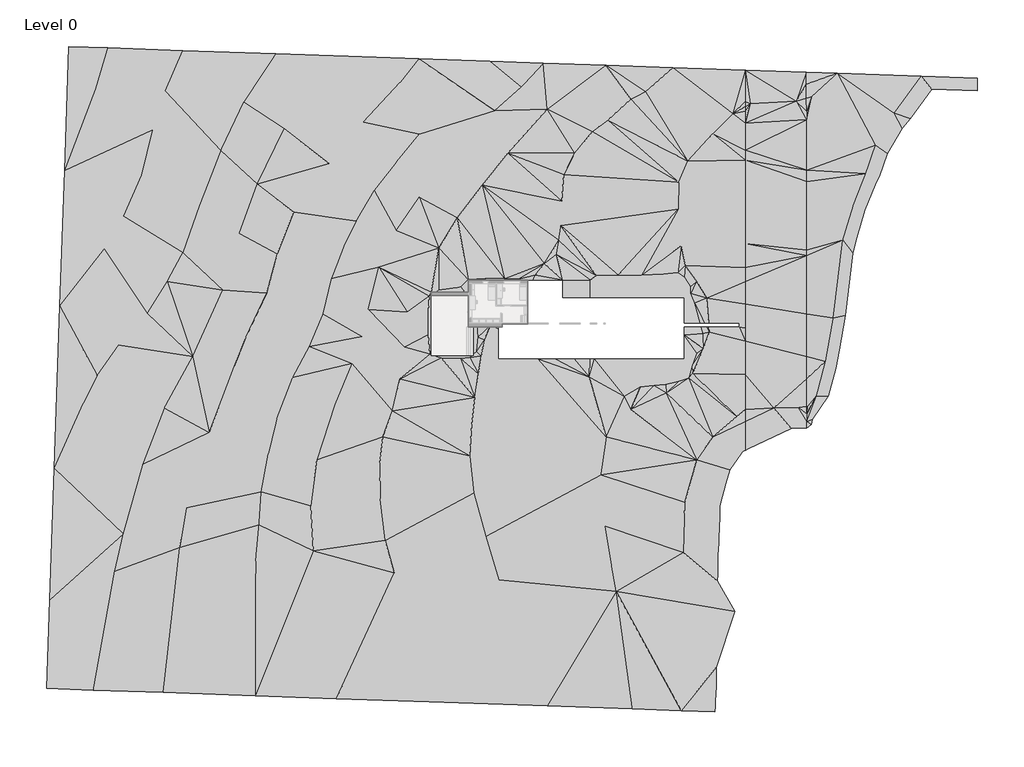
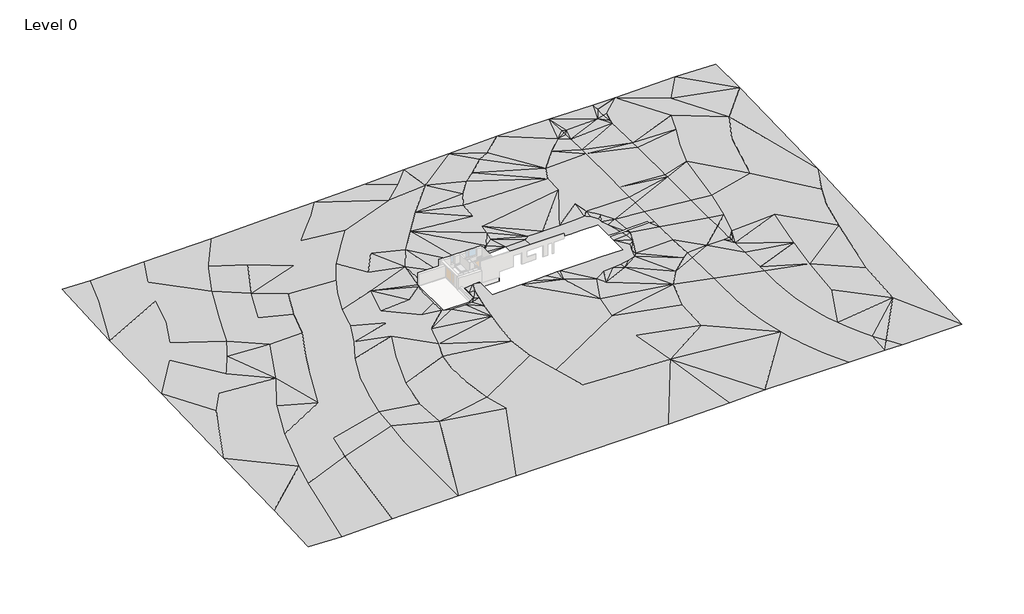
# One storey, part 2 of 2: 3 proxies.
"""IFC4 building model written with IfcOpenShell, lengths in millimetres."""

from ifc_helpers import new_model, si_unit, origin, place, context, project, spatial, triangles, element, save

model = new_model("IFC4")

# Units and contexts
model_context = context("Model", 3, world=origin())
ifc_project = project(units=[si_unit("LENGTHUNIT", "METRE", prefix="MILLI")], contexts=[model_context])

# Site, building, storey
site = spatial("IfcSite", under=ifc_project)
building = spatial("IfcBuilding", under=site)
storey = spatial("IfcBuildingStorey", under=building, Name="Level 0", Elevation=-600.0)

# Proxies
placement = place(None, origin())
element("IfcBuildingElementProxy", 1, Name="Building Element Proxy", at=placement, inside=storey, context=model_context, shape_type="Tessellation", body=[
    triangles([(-47062.8575684, 40293.7637695, -4500.0000343), (-52113.9492554, 40470.1530029, -4500.0000343), (-52680.2635254, 24253.0475281, -4500.0000343), (-53297.9514038, 6564.8318481, -4000.0000305), (-54038.6829346, -14646.8850403, -3500.0000267), (-54638.7579346, -31830.8059204, -3000.0000229), (-55043.0867432, -43409.3735962, -3000.0000229), (-48951.1469604, -43622.1094482, -3000.0000229), (-39803.593689, -43941.550415, -2500.0000191), (-27810.1350586, -44360.3713623, -2000.0000153), (-17239.6279449, -44729.5023193, -1500.0000114), (-5042.8916061, -45155.4205078, -1000.0000076), (10338.5491791, -45692.5505127, -500.0000038), (21451.1325073, -46080.6105469, 0.0), (27844.1074036, -46303.8573853, 500.0000038), (43052.9116333, -46834.9598511, 848.3401514), (41979.1353149, -44769.7417236, 821.2167343), (40992.335083, -42661.5773804, 796.0280828), (40094.2271118, -40514.127063, 772.8178717), (39286.3694458, -38331.1277527, 751.6265053), (39000.8101318, -37448.0839783, 743.9968838), (38570.1596741, -36116.3629395, 734.1783697), (37946.8512085, -33873.683551, 719.8918871), (37417.5207275, -31606.9800476, 707.6728655), (36983.0891052, -29320.1917236, 697.5425245), (36644.3074585, -27017.2904297, 689.5183777), (36596.8638428, -26564.436676, 688.3634336), (36401.7687744, -24702.2712708, 680.94986), (36335.5797913, -23648.1867737, 677.72215), (36255.8939575, -22379.1595825, 675.0342327), (36206.9318298, -20051.987677, 672.2113672), (36206.8132324, -19443.358548, 671.7480234), (36206.0249084, -15469.7173737, 648.0182945), (36205.4621521, -12624.6049896, 609.2137954), (36204.6505737, -8520.1252899, 500.0000038), (36204.4691895, -7605.5439056, 500.0000038), (36204.3436157, -6964.2999069, 500.0000038), (36203.4366943, -2378.8300896, 278.9753953), (36202.5786072, 1955.5409557, 154.9854345), (36202.2367676, 3675.0160881, 145.2621454), (36201.6228516, 6787.9943893, 152.8893415), (36201.0368408, 9744.5709, 142.2020215), (36200.6787231, 11554.5679779, 166.3682426), (36200.0462036, 14749.4345947, 198.2273626), (36199.4904236, 17562.3721985, 203.8248407), (36197.899823, 25594.6726135, 125.4370927), (36197.6416992, 26900.2301331, 115.9978887), (36196.9417419, 30441.6046692, 52.4488289), (36196.6301331, 32020.303656, 0.0), (36196.5092102, 32624.3505066, 0.0), (36196.381311, 33275.6061035, -31.2932048), (36195.5674072, 37386.3156555, -279.2368801), (26696.8216187, 37718.02099, -500.0000038), (18007.2810883, 38021.4652588, -1000.0000076), (9832.8207458, 38306.9245789, -1500.0000114), (2811.2909019, 38552.1212402, -2000.0000153), (-6430.5109772, 38874.8527039, -2500.0000191), (-15696.7697937, 39198.4352783, -3000.0000229), (-25115.869281, 39527.3593872, -3500.0000267), (-37279.4872925, 39952.1241577, -4000.0000305), (12360.0002106, 9960.0001923, -210.0000089), (12360.0002106, 7679.999826, -229.7587047), (12986.7293976, 7679.999826, -199.1943094), (15938.3887665, 7679.999826, -109.0047382), (18788.9891876, 7679.999826, -110.9825699), (20187.7979919, 7679.999826, -100.0000008), (22628.3373962, 7679.999826, -100.0000008), (22988.0666016, 7679.999826, -100.0000008), (24740.727063, 7679.999826, -100.0000008), (28197.1858521, 7679.999826, -100.0000008), (28199.9996338, 7679.999826, -100.0000008), (28199.9996338, 7678.500499, -100.0000008), (28199.9996338, 4319.9999748, -100.0000008), (29690.7714294, 4319.9999748, -100.0000008), (30279.9424438, 4319.9999748, -100.0000008), (30908.9993958, 4319.9999748, -31.0460633), (31416.6009705, 4319.9999748, 0.0), (35399.9996887, 4319.9999748, 122.2298394), (35399.9996887, 3839.999913, 121.0508688), (31455.0242065, 3839.999913, 0.0), (31153.3635498, 3839.999913, -18.4501842), (30409.3973328, 3839.999913, -100.0000008), (29712.602655, 3839.999913, -100.0000008), (28199.9996338, 3839.999913, -100.0000008), (28199.9996338, 2757.5497055, -100.0000008), (28199.9996338, -360.00001, -100.0000008), (23853.7207397, -360.00001, -100.0000008), (22511.993335, -360.00001, -100.0000008), (21752.8164185, -360.00001, -100.0000008), (16504.800705, -360.00001, -141.2041627), (15862.1806274, -360.00001, -140.758296), (15196.7770569, -360.00001, -161.0900401), (13880.4667053, -360.00001, -225.2839233), (13373.8755341, -360.00001, -233.3955103), (12470.4004486, -360.00001, -249.2727207), (11393.3638641, -360.00001, -270.7964614), (9179.1106476, -360.00001, -319.6154838), (3959.9998558, -360.00001, -445.0650939), (3959.9998558, 1473.4966873, -452.5169646), (3959.9998558, 3551.736985, -472.7297934), (3959.9998558, 3839.999913, -476.6637102), (3412.2219543, 3839.999913, -487.6106074), (2850.2850334, 3839.999913, -500.0000038), (2705.52323, 3839.999913, -531.4807858), (1224.3767189, 3839.999913, -709.9999763), (0.0, 3839.999913, -709.9999763), (0.0, 3843.4784798, -709.9999763), (0.0, 4418.2806038, -709.9999763), (0.0, 7191.4790634, -709.9999763), (0.0, 7461.3893326, -709.9999763), (0.0, 7882.6211792, -709.9999763), (0.0, 7919.9997116, -710.7061106), (-31.6140269, 7919.9997116, -709.9999763), (-1504.7497215, 7919.9997116, -709.9999763), (-4176.3875198, 7919.9997116, -709.9999763), (-4800.0000366, 7919.9997116, -709.9999763), (-4800.0000366, 8035.0118774, -709.9999763), (-4800.0000366, 8400.0000641, -729.1942263), (-4206.8946693, 8400.0000641, -709.9999763), (-3944.5231842, 8400.0000641, -709.9999763), (-3079.6797523, 8400.0000641, -709.9999763), (-437.587825, 8400.0000641, -709.9999763), (0.0, 8400.0000641, -719.7739437), (0.0, 9960.0001923, -749.2443832), (7.1510965, 9960.0001923, -749.4040392), (2125.0455803, 9960.0001923, -747.2442146), (2319.5642303, 9960.0001923, -739.3771076), (2455.8945717, 9960.0001923, -733.8796234), (4805.8618881, 9960.0001923, -733.8796234), (4953.8563431, 9960.0001923, -725.251153), (6600.6441971, 9960.0001923, -730.7311237), (6853.6020126, 9960.0001923, -704.9790619), (7800.0000595, 9960.0001923, -581.8375231), (8428.9581802, 9960.0001923, -500.0000038), (63585.4397461, -47551.9718994, 1500.0000114), (65303.6651001, 1651.4795734, 1500.0000114), (66230.8503662, 28202.6204041, 1000.0000076), (66514.5772339, 36327.5523743, 500.0000038), (59144.0178223, 36584.9389893, 500.0000038), (48210.2572998, 36966.7552185, 0.0), (44190.6933472, 37107.1210693, -93.4198246), (44191.0003052, 35558.2946777, 0.0), (44191.2654053, 34209.8676819, 0.0), (44191.3677246, 33712.0096985, 0.0), (44191.7165405, 31934.6437683, 72.6111838), (44191.9211792, 30893.6096375, 88.7050779), (44193.2234253, 24332.861261, 306.6717607), (44193.5257324, 22803.0964966, 334.1229921), (44194.269873, 19042.5376648, 361.3118849), (44194.8558838, 16068.4447815, 390.3362397), (44195.0651733, 15026.9083557, 388.2636918), (44195.2977173, 13843.9561432, 376.4673188), (44195.4279419, 13173.7749573, 367.5193548), (44196.9394775, 5532.5384628, 395.1405976), (44197.1255127, 4592.1322014, 392.8364868), (44198.0463867, -57.8921377, 419.1314661), (44198.6091431, -2884.8492027, 500.0000038), (44198.9998169, -4861.496283, 500.0000038), (44199.22771, -6011.4522537, 500.0000038), (44199.3393311, -6581.8465073, 500.0000038), (44199.534668, -7568.643251, 560.6235563), (44199.7160522, -8498.5527695, 566.292905), (44200.3625244, -11759.9798584, 687.5978554), (44201.3159546, -16580.0542511, 815.8525269), (44201.5810547, -17920.7363708, 834.1381113), (44201.953125, -19793.2081238, 845.3201323), (44202.0600952, -20331.1822632, 845.7296276), (44234.3790527, -21781.2960754, 847.527919), (44247.6340576, -22375.9504761, 848.8214447), (44383.467627, -24416.7119568, 855.2387129), (44609.2864014, -26449.4832275, 863.612911), (44771.1741943, -27486.8129333, 868.9077913), (44924.6578491, -28470.2994141, 872.5287912), (45328.9634033, -30475.216571, 881.9271275), (45733.0829224, -32104.2566711, 891.2315014), (45821.4124146, -32460.3233093, 893.6950138), (46401.0468018, -34421.7477722, 909.3926748), (47066.7317505, -36355.6599609, 927.0232121), (47817.1743164, -38258.2880127, 946.5522526), (48650.9048218, -40125.9182007, 967.9416447), (49566.3001099, -41954.9088867, 991.1496758), (49918.9018433, -42587.926062, 1000.0000076), (50561.5695923, -43741.6928467, 1047.5840218), (51238.2864258, -44839.5421143, 1097.2580973), (51634.7785034, -45482.7772705, 1100.1833548), (52783.824646, -47174.7716675, 1111.758375), (-48727.0164551, 34677.7437744, -4500.0000343), (-39569.998645, 34629.3444031, -4000.0000305), (-41240.5431885, 29531.6671875, -4000.0000305), (-42666.0794312, 23679.1686035, -4000.0000305), (-45023.6843628, 18334.1157898, -4000.0000305), (-47481.3203979, 14010.1901825, -4000.0000305), (-29308.3924438, 33185.52323, -3500.0000267), (-32311.3300781, 26845.3706909, -3500.0000267), (-35071.6220581, 19682.6404541, -3500.0000267), (-37254.3446411, 13517.3714264, -3500.0000267), (-39284.1230713, 9789.0862061, -3500.0000267), (-41872.5418213, 5605.4113403, -3500.0000267), (-45612.8763062, 1461.9632343, -3500.0000267), (-48397.4737793, -2511.3333389, -3500.0000267), (-50221.6089478, -6178.9583084, -3500.0000267), (-24001.2001099, 29743.7635437, -3000.0000229), (-27511.581189, 22471.5399902, -3000.0000229), (-29907.0466003, 16042.3324219, -3000.0000229), (-32064.6009521, 8655.024614, -3000.0000229), (-35963.4699463, -28.3201486, -3000.0000229), (-39658.2025635, -6751.3675552, -3000.0000229), (-42493.3504395, -14115.012854, -3000.0000229), (-45048.8595703, -23184.4801941, -3000.0000229), (-46170.2283325, -28097.808197, -3000.0000229), (-37649.7205078, -25003.2366211, -2500.0000191), (-36789.9264771, -19809.4048096, -2500.0000191), (-33799.4648254, -9941.0199554, -2500.0000191), (-30515.1652954, -1371.8979469, -2500.0000191), (-29025.0981079, 2443.0776215, -2500.0000191), (-26312.1288208, 8250.6173218, -2500.0000191), (-24912.6235474, 13357.7590759, -2500.0000191), (-22753.5623108, 18845.4299286, -2500.0000191), (-18122.0287354, 25196.5527283, -2500.0000191), (-13659.1406799, 30603.7715149, -2500.0000191), (-8864.5531036, 35795.8801758, -2500.0000191), (-6388.4228485, 28993.025647, -2000.0000153), (-9364.4702637, 25365.6261292, -2000.0000153), (-12275.123996, 21668.1006592, -2000.0000153), (-14585.4062347, 17678.2418701, -2000.0000153), (-16187.3305481, 14459.9999359, -2000.0000153), (-17834.2137451, 10125.5145081, -2000.0000153), (-18946.1179688, 5483.2257751, -2000.0000153), (-20721.4212341, 1271.1572937, -2000.0000153), (-22898.5511353, -2791.1947449, -2000.0000153), (-24987.4840942, -8213.472496, -2000.0000153), (-26097.0210205, -12788.0019928, -2000.0000153), (-27015.1114929, -17708.4272369, -2000.0000153), (-27302.068396, -22040.3128235, -2000.0000153), (-27738.7440674, -26774.0238831, -2000.0000153), (-20228.3931885, -25408.0747009, -1500.0000114), (-20566.9748474, -19561.815271, -1500.0000114), (-19746.5435303, -13552.5030029, -1500.0000114), (-17390.4443207, -6307.8138153, -1500.0000114), (-15168.3566986, -958.0283689, -1500.0000114), (-13891.0335022, 2593.0074234, -1500.0000114), (-13022.63302, 6090.4805695, -1500.0000114), (-11674.3234589, 11674.3060181, -1500.0000114), (-9405.7723938, 16411.8877716, -1500.0000114), (-6403.6969162, 20784.6429565, -1500.0000114), (-1297.8450542, 27119.2028137, -1500.0000114), (3489.6439728, 32108.0331848, -1500.0000114), (6921.0792892, 35176.7923828, -1500.0000114), (10347.5660706, 32275.6020264, -1000.0000076), (5195.2503296, 26553.2466614, -1000.0000076), (1859.1087605, 22327.8417847, -1000.0000076), (-1398.9093796, 18126.6784515, -1000.0000076), (-3825.0772774, 14149.4654022, -1000.0000076), (-7940.8594849, 5802.4702423, -1000.0000076), (-8333.9447937, 1225.2095169, -1000.0000076), (-8925.7639023, -3001.0194374, -1000.0000076), (-9890.4183929, -7180.3012573, -1000.0000076), (-11160.6431854, -10534.0500366, -1000.0000076), (-11552.3599731, -13974.3353943, -1000.0000076), (-11444.5898071, -18659.2157135, -1000.0000076), (-10818.4059357, -24040.6232849, -1000.0000076), (-9609.9180725, -28289.0453613, -1000.0000076), (3993.2080032, -29238.9734253, -500.0000038), (2292.3340611, -23548.6672668, -500.0000038), (726.9793905, -17863.0957031, -500.0000038), (217.3844419, -13028.4977783, -500.0000038), (497.2431227, -8899.8916443, -500.0000038), (891.3251003, -5385.8549744, -500.0000038), (1346.1470478, -2223.5266331, -500.0000038), (2095.3158543, 2128.5684757, -500.0000038), (8788.1391632, 10609.6175171, -500.0000038), (11516.9016724, 13306.7726532, -500.0000038), (12123.7274231, 17084.7490265, -500.0000038), (12234.9392395, 20269.4534729, -500.0000038), (12491.1363922, 23720.4637573, -500.0000038), (13945.7103973, 26519.0440979, -500.0000038), (16215.7660217, 29356.9894775, -500.0000038), (18235.2195007, 30846.8403992, -500.0000038), (21248.2658203, 33590.9984802, -500.0000038), (23181.0292419, 34541.1404846, -500.0000038), (44868.8473022, 33919.4691284, 0.0), (34547.2261597, 31701.9021606, 0.0), (31945.4710144, 29079.0645813, 0.0), (28698.3831665, 25461.1296021, 0.0), (27517.2157288, 22720.8457031, 0.0), (27461.9307312, 19194.9760345, 0.0), (27860.4226868, 14459.9999359, 0.0), (28378.5817566, 11841.5469727, 0.0), (31155.623877, 7580.336142, 0.0), (31511.3044922, 3136.9059105, 0.0), (29351.6991028, -2282.9900093, 0.0), (21225.0300293, -6988.215889, 0.0), (18031.4156616, -10534.0500366, 0.0), (17294.3222809, -15524.4210114, 0.0), (17875.5484314, -22193.2616272, 0.0), (18716.8424286, -27242.9696777, 0.0), (19341.5217407, -30724.7408752, 0.0), (28068.5355652, -25602.1116943, 500.0000038), (28295.6914673, -19097.1854919, 500.0000038), (29847.280481, -13520.4584473, 500.0000038), (31979.4526611, -10534.0500366, 500.0000038), (35064.9899048, -7868.2290344, 500.0000038), (36199.9996948, -6964.5516357, 500.0000038), (44337.0937134, -6563.8028412, 500.0000038), (45470.9361328, -5178.7100601, 500.0000038), (46645.8690674, -674.3065882, 500.0000038), (47657.7468384, 4989.1094238, 500.0000038), (48895.9224243, 15190.0553741, 500.0000038), (50274.1313232, 19687.3610962, 500.0000038), (51911.5476563, 23836.4008667, 500.0000038), (53195.971582, 27590.7158936, 500.0000038), (55648.8730225, 31779.1230286, 500.0000038), (60736.0043701, 22035.7154297, 1000.0000076), (58037.2342163, 16634.7334717, 1000.0000076), (55722.0034424, 6674.9251282, 1000.0000076), (53335.7909546, -5317.6719269, 1000.0000076), (52093.7411865, -13686.7413208, 1000.0000076), (51326.8763672, -20104.9774658, 1000.0000076), (50706.4956299, -28156.5464722, 1000.0000076), (57713.8725586, -35619.0770142, 1500.0000114), (58305.9015381, -26183.1273926, 1500.0000114), (60372.2498291, -13636.622287, 1500.0000114), (61674.0959473, -7440.5935089, 1500.0000114), (63057.1231567, -3553.8845284, 1500.0000114), (11832.5114777, 15154.4156891, -500.0000038), (9950.8751678, 12083.4426727, -500.0000038), (1735.4006138, 0.0, -500.0000038), (29870.0907166, 9741.7024704, 0.0), (30738.9167542, 999.1443913, 0.0), (25851.7731995, -4811.1269737, 0.0), (20416.7863403, -5238.1424789, -100.0000008), (22459.4616577, -3990.260218, -100.0000008), (24228.7466858, -3843.1572784, -100.0000008), (25817.300885, -3664.5609123, -100.0000008), (27456.1055054, -3296.7179581, -100.0000008), (28837.8746521, -2864.285051, -100.0000008), (29304.2043274, -1143.71609, -100.0000008), (29869.8953796, 381.3363894, -100.0000008), (30652.7243408, 2937.7683563, -100.0000008), (29571.2717468, 6947.676503, -100.0000008), (29062.4818726, 8164.9522018, -100.0000008), (29045.64104, 9098.5016144, -100.0000008), (28251.6918274, 10345.668512, -100.0000008), (27431.4721252, 10924.2006409, -100.0000008), (15839.9994232, -2700.0000206, -150.0000011), (25511.5637329, 10719.1294373, -100.0000008), (22670.9580505, 10625.224704, -100.0000008), (19619.0675903, 10601.74823, -100.0000008), (16754.9842712, 10554.7964447, -100.0000008), (15960.000238, 9960.0001923, -100.0000008), (6589.8413681, 10108.750415, -750.0000057), (4758.7072083, 10155.703363, -750.0000057), (2246.7664936, 10155.703363, -750.0000057), (0.0, 10000.0000763, -750.0000057), (-969.4566685, 9028.8512146, -709.9999763), (-3833.5386795, 8629.7575516, -709.9999763), (-5054.2949799, 7878.5231735, -709.9999763), (-5171.6750244, 5859.5801285, -709.9999763), (-5195.1514984, 2831.1655609, -709.9999763), (-5030.8185059, 319.2248099, -709.9999763), (-3528.3494591, -220.7250446, -709.9999763), (-969.4566685, -267.6772114, -709.9999763), (251.2995955, -150.2968035, -709.9999763), (1096.4385252, 624.4138487, -709.9999763), (1284.2471924, 2479.0242645, -709.9999763)], [[6, 7, 8], [210, 8, 9], [8, 210, 6], [235, 211, 9], [6, 209, 5], [209, 6, 210], [209, 210, 211], [5, 209, 208], [209, 212, 208], [212, 209, 211], [234, 212, 211], [213, 208, 212], [210, 9, 211], [5, 208, 201], [235, 9, 10], [235, 236, 234], [235, 10, 236], [262, 261, 236], [262, 11, 12], [260, 261, 265], [262, 236, 11], [10, 11, 236], [236, 261, 237], [234, 237, 233], [234, 236, 237], [233, 237, 238], [233, 212, 234], [238, 260, 259], [260, 238, 237], [259, 266, 258], [238, 259, 258], [261, 260, 237], [213, 212, 233], [265, 259, 260], [234, 211, 235], [232, 233, 238], [201, 200, 4], [200, 201, 207], [206, 207, 213], [207, 201, 208], [207, 208, 213], [200, 207, 199], [233, 232, 213], [213, 231, 214], [4, 199, 198], [199, 4, 200], [198, 199, 206], [192, 4, 198], [206, 214, 215], [206, 199, 207], [230, 215, 214], [198, 206, 197], [213, 214, 206], [215, 205, 206], [231, 213, 232], [201, 4, 5], [231, 239, 230], [232, 238, 231], [240, 230, 239], [231, 230, 214], [239, 257, 240], [266, 257, 258], [268, 256, 257], [257, 239, 258], [239, 231, 238], [256, 240, 257], [228, 229, 241], [240, 229, 230], [241, 229, 240], [229, 216, 215], [241, 255, 242], [255, 241, 240], [242, 255, 254], [241, 242, 228], [240, 256, 255], [228, 216, 229], [255, 256, 360], [229, 215, 230], [238, 258, 239], [228, 242, 227], [261, 262, 264], [257, 266, 267], [266, 259, 265], [265, 294, 266], [265, 261, 264], [264, 262, 263], [293, 267, 266], [12, 13, 263], [264, 294, 265], [362, 361, 268], [257, 267, 268], [361, 256, 268], [106, 361, 362], [268, 98, 269], [97, 98, 268], [362, 269, 363], [268, 269, 362], [97, 268, 267], [98, 327, 269], [264, 263, 295], [361, 360, 256], [96, 97, 345], [296, 295, 263], [264, 295, 294], [97, 293, 345], [293, 97, 267], [90, 345, 331], [263, 13, 297], [96, 345, 95], [345, 94, 95], [345, 93, 94], [92, 93, 345], [345, 91, 92], [345, 90, 91], [293, 266, 294], [360, 361, 359], [359, 254, 255], [106, 362, 365], [359, 361, 106], [364, 363, 327], [364, 362, 363], [359, 106, 107], [357, 254, 358], [254, 359, 358], [108, 109, 114], [242, 254, 243], [358, 108, 114], [108, 358, 359], [107, 108, 359], [362, 364, 365], [255, 360, 359], [364, 270, 365], [270, 364, 327], [270, 327, 99], [104, 365, 270], [270, 100, 102], [99, 100, 270], [327, 98, 99], [101, 102, 100], [104, 105, 365], [103, 104, 270], [62, 63, 61], [103, 270, 102], [365, 105, 106], [363, 269, 327], [114, 109, 110], [263, 262, 12], [196, 197, 205], [205, 197, 206], [216, 227, 217], [216, 228, 227], [217, 227, 226], [216, 217, 205], [205, 215, 216], [204, 205, 217], [192, 196, 191], [196, 192, 197], [195, 191, 196], [192, 191, 3], [217, 218, 204], [204, 196, 205], [218, 226, 225], [195, 196, 204], [226, 218, 217], [203, 204, 218], [227, 243, 226], [197, 192, 198], [357, 117, 118], [117, 357, 116], [116, 357, 358], [115, 116, 358], [225, 243, 244], [243, 225, 226], [253, 244, 243], [225, 244, 224], [118, 119, 356], [356, 119, 120], [253, 243, 118], [243, 357, 118], [245, 244, 253], [120, 121, 356], [243, 227, 242], [357, 243, 254], [218, 225, 219], [3, 190, 189], [3, 191, 190], [190, 194, 189], [194, 190, 195], [193, 194, 202], [189, 194, 188], [191, 195, 190], [3, 189, 187], [2, 187, 1], [187, 2, 3], [1, 187, 188], [188, 193, 60], [188, 187, 189], [60, 193, 59], [188, 60, 1], [194, 193, 188], [194, 195, 203], [218, 219, 203], [195, 204, 203], [219, 224, 223], [202, 203, 219], [223, 245, 222], [245, 223, 224], [246, 222, 245], [219, 223, 220], [219, 225, 224], [222, 220, 223], [59, 202, 58], [59, 193, 202], [58, 202, 220], [221, 57, 58], [221, 220, 222], [57, 221, 222], [221, 58, 220], [202, 219, 220], [57, 222, 247], [202, 194, 203], [244, 245, 224], [118, 356, 253], [192, 3, 4], [114, 110, 113], [111, 112, 113], [358, 114, 115], [121, 122, 355], [122, 123, 355], [356, 355, 253], [354, 124, 125], [124, 354, 355], [355, 123, 124], [354, 125, 126], [253, 355, 354], [352, 129, 130], [351, 130, 131], [131, 132, 351], [128, 129, 352], [353, 126, 127], [127, 128, 353], [134, 61, 271], [61, 63, 350], [134, 271, 133], [351, 132, 133], [354, 126, 353], [350, 65, 349], [111, 113, 110], [272, 61, 350], [251, 245, 252], [253, 354, 252], [128, 352, 353], [352, 130, 351], [252, 352, 251], [353, 352, 252], [354, 353, 252], [326, 251, 352], [57, 247, 56], [246, 245, 251], [250, 246, 251], [247, 222, 246], [248, 247, 249], [250, 247, 246], [250, 249, 247], [247, 248, 56], [250, 251, 274], [56, 248, 55], [351, 326, 352], [252, 245, 253], [61, 272, 326], [326, 271, 61], [326, 272, 325], [325, 251, 326], [325, 349, 273], [349, 325, 272], [274, 273, 286], [273, 251, 325], [351, 133, 271], [251, 273, 274], [249, 54, 55], [55, 248, 249], [250, 274, 275], [250, 275, 276], [275, 285, 276], [277, 276, 285], [276, 277, 249], [276, 249, 250], [274, 285, 275], [278, 249, 277], [349, 348, 273], [271, 326, 351], [272, 350, 349], [65, 350, 64], [355, 356, 121], [64, 350, 63], [299, 294, 295], [296, 297, 298], [296, 263, 297], [297, 23, 298], [30, 298, 29], [15, 297, 14], [13, 14, 297], [298, 299, 295], [299, 33, 300], [33, 299, 32], [300, 33, 34], [300, 294, 299], [31, 32, 299], [30, 31, 299], [299, 298, 30], [23, 297, 15], [294, 300, 293], [22, 23, 15], [21, 22, 15], [19, 20, 15], [15, 20, 21], [28, 29, 298], [28, 298, 27], [25, 26, 298], [24, 25, 298], [298, 26, 27], [23, 24, 298], [15, 18, 19], [331, 89, 90], [331, 293, 292], [332, 292, 333], [330, 292, 300], [333, 292, 330], [292, 332, 331], [293, 300, 292], [331, 332, 89], [332, 87, 88], [88, 89, 332], [87, 334, 86], [334, 333, 330], [335, 334, 330], [334, 87, 333], [333, 87, 332], [86, 334, 335], [330, 336, 335], [302, 36, 303], [35, 302, 301], [302, 303, 38], [301, 302, 336], [35, 36, 302], [34, 35, 301], [301, 330, 300], [303, 36, 37], [86, 336, 337], [336, 86, 335], [337, 336, 291], [338, 86, 337], [302, 38, 291], [291, 336, 302], [337, 291, 329], [37, 38, 303], [291, 38, 329], [301, 336, 330], [300, 34, 301], [295, 296, 298], [17, 18, 15], [319, 176, 177], [17, 15, 16], [319, 172, 173], [175, 319, 174], [175, 176, 319], [319, 173, 174], [172, 319, 171], [178, 319, 177], [183, 320, 182], [184, 320, 183], [320, 185, 186], [184, 185, 320], [320, 186, 135], [320, 179, 180], [320, 180, 181], [319, 320, 321], [319, 178, 320], [321, 320, 135], [171, 319, 170], [181, 182, 320], [320, 178, 179], [135, 322, 321], [318, 319, 321], [163, 317, 162], [165, 318, 164], [317, 163, 164], [166, 318, 165], [305, 157, 158], [159, 305, 158], [304, 160, 161], [159, 160, 304], [162, 305, 161], [166, 167, 318], [318, 168, 169], [318, 169, 170], [318, 322, 317], [322, 318, 321], [317, 322, 316], [317, 164, 318], [170, 319, 318], [162, 317, 316], [305, 306, 157], [161, 305, 304], [306, 305, 316], [305, 159, 304], [316, 323, 324], [162, 316, 305], [324, 323, 322], [306, 316, 315], [322, 323, 316], [315, 316, 324], [324, 322, 136], [167, 168, 318], [322, 135, 136], [306, 156, 157], [84, 85, 83], [340, 74, 75], [73, 74, 340], [85, 339, 83], [66, 67, 347], [65, 66, 348], [341, 72, 340], [73, 340, 72], [67, 68, 347], [339, 82, 83], [85, 329, 339], [82, 339, 81], [290, 81, 339], [79, 290, 39], [81, 290, 80], [290, 339, 329], [290, 329, 39], [76, 289, 340], [289, 76, 77], [76, 340, 75], [79, 80, 290], [289, 77, 78], [328, 289, 42], [338, 337, 329], [338, 329, 85], [86, 338, 85], [341, 340, 289], [286, 348, 347], [348, 66, 347], [346, 70, 344], [70, 346, 69], [286, 347, 287], [69, 346, 347], [68, 69, 347], [347, 346, 287], [54, 278, 279], [249, 278, 54], [284, 279, 278], [54, 279, 280], [53, 280, 283], [279, 284, 280], [277, 285, 278], [280, 53, 54], [286, 285, 274], [346, 344, 287], [273, 348, 286], [343, 70, 342], [342, 70, 71], [288, 344, 343], [342, 341, 328], [341, 342, 71], [328, 341, 289], [342, 328, 343], [71, 72, 341], [343, 328, 288], [284, 46, 283], [285, 286, 45], [287, 344, 288], [44, 287, 288], [285, 46, 284], [45, 286, 287], [283, 282, 53], [284, 283, 280], [288, 328, 43], [285, 284, 278], [283, 48, 282], [343, 344, 70], [53, 282, 52], [65, 348, 349], [42, 43, 328], [289, 41, 42], [40, 41, 78], [40, 78, 79], [79, 39, 40], [45, 287, 44], [44, 288, 43], [308, 149, 150], [308, 150, 151], [45, 46, 285], [307, 154, 155], [155, 156, 306], [307, 155, 306], [306, 315, 307], [315, 136, 314], [154, 307, 153], [324, 136, 315], [308, 307, 315], [152, 153, 308], [153, 307, 308], [308, 309, 149], [310, 309, 314], [314, 309, 308], [313, 314, 136], [149, 309, 148], [315, 314, 308], [308, 151, 152], [136, 137, 313], [38, 39, 329], [313, 310, 314], [282, 49, 50], [48, 49, 282], [283, 47, 48], [50, 51, 282], [282, 51, 52], [143, 144, 281], [142, 143, 281], [141, 142, 140], [283, 46, 47], [147, 148, 310], [146, 147, 311], [313, 311, 310], [313, 137, 312], [146, 311, 281], [310, 311, 147], [148, 309, 310], [311, 313, 312], [311, 140, 281], [281, 145, 146], [281, 140, 142], [145, 281, 144], [137, 139, 312], [139, 137, 138], [312, 139, 140], [312, 140, 311], [289, 78, 41], [293, 331, 345]], closed=False),
])
element("IfcBuildingElementProxy", 2, Name="Building Element Proxy", at=placement, inside=storey, context=model_context, shape_type="Tessellation", body=[
    triangles([(49674.4981567, -47066.1922485, 1000.0000076), (52783.824646, -47174.7716675, 1111.758375), (51634.7785034, -45482.7772705, 1100.1833548), (51238.2864258, -44839.5421143, 1097.2580973), (50561.5695923, -43741.6928467, 1047.5840218), (49918.9018433, -42587.926062, 1000.0000076), (49566.3001099, -41954.9088867, 991.1496758), (48650.9048218, -40125.9182007, 967.9416447), (47817.1743164, -38258.2880127, 946.5522526), (47066.7317505, -36355.6599609, 927.0232121), (46401.0468018, -34421.7477722, 909.3926748), (45821.4124146, -32460.3233093, 893.6950138), (45733.0829224, -32104.2566711, 891.2315014), (45328.9634033, -30475.216571, 881.9271275), (44924.6578491, -28470.2994141, 872.5287912), (44771.1741943, -27486.8129333, 868.9077913), (44609.2864014, -26449.4832275, 863.612911), (44383.467627, -24416.7119568, 855.2387129), (44247.6340576, -22375.9504761, 848.8214447), (44234.3790527, -21781.2960754, 847.527919), (44202.0600952, -20331.1822632, 845.7296276), (44201.953125, -19793.2081238, 845.3201323), (44201.5810547, -17920.7363708, 834.1381113), (44201.3159546, -16580.0542511, 815.8525269), (44200.3625244, -11759.9798584, 687.5978554), (44199.7160522, -8498.5527695, 566.292905), (44199.534668, -7568.643251, 560.6235563), (44199.3393311, -6581.8465073, 500.0000038), (44199.22771, -6011.4522537, 500.0000038), (44198.9998169, -4861.496283, 500.0000038), (44198.6091431, -2884.8492027, 500.0000038), (44198.0463867, -57.8921377, 419.1314661), (44197.1255127, 4592.1322014, 392.8364868), (44196.9394775, 5532.5384628, 395.1405976), (44195.4279419, 13173.7749573, 367.5193548), (44195.2977173, 13843.9561432, 376.4673188), (44195.0651733, 15026.9083557, 388.2636918), (44194.8558838, 16068.4447815, 390.3362397), (44194.269873, 19042.5376648, 361.3118849), (44193.5257324, 22803.0964966, 334.1229921), (44193.2234253, 24332.861261, 306.6717607), (44191.9211792, 30893.6096375, 88.7050779), (44191.7165405, 31934.6437683, 72.6111838), (44191.3677246, 33712.0096985, 0.0), (44191.2654053, 34209.8676819, 0.0), (44191.0003052, 35558.2946777, 0.0), (44190.6933472, 37107.1210693, -93.4198246), (36195.5674072, 37386.3156555, -279.2368801), (36196.381311, 33275.6061035, -31.2932048), (36196.5092102, 32624.3505066, 0.0), (36196.6301331, 32020.303656, 0.0), (36196.9417419, 30441.6046692, 52.4488289), (36197.6416992, 26900.2301331, 115.9978887), (36197.899823, 25594.6726135, 125.4370927), (36199.4904236, 17562.3721985, 203.8248407), (36200.0462036, 14749.4345947, 198.2273626), (36200.6787231, 11554.5679779, 166.3682426), (36201.0368408, 9744.5709, 142.2020215), (36201.6228516, 6787.9943893, 152.8893415), (36202.2367676, 3675.0160881, 145.2621454), (36202.5786072, 1955.5409557, 154.9854345), (36203.4366943, -2378.8300896, 278.9753953), (36204.3436157, -6964.2999069, 500.0000038), (36204.4691895, -7605.5439056, 500.0000038), (36204.6505737, -8520.1252899, 500.0000038), (36205.4621521, -12624.6049896, 609.2137954), (36206.0249084, -15469.7173737, 648.0182945), (36206.8132324, -19443.358548, 671.7480234), (36206.9318298, -20051.987677, 672.2113672), (36255.8939575, -22379.1595825, 675.0342327), (36335.5797913, -23648.1867737, 677.72215), (36401.7687744, -24702.2712708, 680.94986), (36596.8638428, -26564.436676, 688.3634336), (36644.3074585, -27017.2904297, 689.5183777), (36983.0891052, -29320.1917236, 697.5425245), (37417.5207275, -31606.9800476, 707.6728655), (37946.8512085, -33873.683551, 719.8918871), (38570.1596741, -36116.3629395, 734.1783697), (39000.8101318, -37448.0839783, 743.9968838), (39286.3694458, -38331.1277527, 751.6265053), (40094.2271118, -40514.127063, 772.8178717), (40992.335083, -42661.5773804, 796.0280828), (41979.1353149, -44769.7417236, 821.2167343), (43052.9116333, -46834.9598511, 848.3401514), (42880.1593872, 33310.4923462, 0.0), (36830.619342, 32979.0102539, 0.0), (39920.8842041, -6748.7967819, 500.0000038), (43110.3174316, -6724.490126, 500.0000038)], [[69, 22, 68], [71, 19, 70], [68, 23, 67], [70, 21, 69], [65, 87, 64], [64, 87, 63], [66, 67, 25], [25, 87, 66], [87, 65, 66], [72, 18, 71], [79, 11, 78], [80, 81, 10], [80, 11, 79], [81, 82, 9], [74, 17, 73], [74, 75, 16], [77, 14, 76], [15, 75, 76], [78, 12, 77], [18, 72, 73], [8, 82, 83], [54, 41, 53], [56, 38, 55], [55, 40, 54], [42, 52, 53], [86, 49, 50], [86, 50, 51], [42, 85, 52], [52, 86, 51], [48, 49, 86], [57, 58, 35], [33, 60, 61], [31, 62, 87], [87, 62, 63], [26, 88, 87], [61, 62, 32], [59, 60, 34], [85, 86, 52], [85, 44, 45], [85, 47, 48], [58, 59, 34], [46, 47, 85], [45, 46, 85], [56, 57, 35], [85, 48, 86], [30, 87, 88], [7, 83, 84], [15, 16, 75], [13, 14, 77], [12, 13, 77], [15, 76, 14], [23, 68, 22], [20, 21, 70], [18, 19, 71], [17, 18, 73], [20, 70, 19], [16, 17, 74], [1, 5, 6], [5, 1, 4], [3, 4, 1], [2, 3, 1], [11, 80, 10], [10, 81, 9], [8, 83, 7], [7, 84, 6], [82, 8, 9], [11, 12, 78], [6, 84, 1], [56, 37, 38], [56, 35, 36], [35, 58, 34], [36, 37, 56], [43, 44, 85], [43, 85, 42], [54, 40, 41], [55, 39, 40], [53, 41, 42], [55, 38, 39], [88, 27, 28], [87, 25, 26], [33, 34, 60], [88, 26, 27], [33, 61, 32], [62, 31, 32], [30, 31, 87], [30, 88, 29], [29, 88, 28], [24, 25, 67], [24, 67, 23], [21, 22, 69]], closed=False),
])
element("IfcBuildingElementProxy", 3, Name="Building Element Proxy", at=placement, inside=storey, context=model_context, shape_type="Tessellation", body=[
    triangles([(7800.0000595, 9960.0001923, -1900.1595978), (7800.0000595, 9960.0001923, -1300.1595932), (7800.0000595, 9426.2676544, -1900.1595978), (7800.0000595, 9426.2676544, -1300.1595932), (7800.0000595, 9070.6283157, -1900.1595978), (7800.0000595, 9070.6283157, -1300.1595932), (7800.0000595, 8517.3359253, -1900.1595978), (7800.0000595, 8517.3359253, -1300.1595932), (7800.0000595, 6901.0630692, -1900.1595978), (7800.0000595, 6901.0630692, -1300.1595932), (7800.0000595, 4928.8119415, -1900.1595978), (7800.0000595, 4928.8119415, -1300.1595932), (7800.0000595, 4200.000032, -1900.1595978), (7800.0000595, 4200.000032, -1300.1595932), (5904.0000916, 4200.000032, -1900.1595978), (5904.0000916, 4200.000032, -1300.1595932), (4439.9999176, 4200.000032, -1900.1595978), (4439.9999176, 4200.000032, -1300.1595932), (4439.9999176, 3839.999913, -1900.1595978), (4439.9999176, 3839.999913, -1300.1595932), (3959.9998558, 3839.999913, -1900.1595978), (3959.9998558, 3839.999913, -1300.1595932)], [[1, 4, 2], [1, 3, 4], [3, 6, 4], [3, 5, 6], [5, 8, 6], [5, 7, 8], [7, 10, 8], [7, 9, 10], [9, 12, 10], [9, 11, 12], [11, 14, 12], [11, 13, 14], [13, 16, 14], [13, 15, 16], [15, 18, 16], [15, 17, 18], [17, 20, 18], [17, 19, 20], [19, 22, 20], [19, 21, 22]], closed=False),
    triangles([(7800.0000595, 9960.0001923, -1900.1595978), (7800.0000595, 9960.0001923, -581.8375231), (6853.6020126, 9960.0001923, -1900.1595978), (6853.6020126, 9960.0001923, -704.9790619), (6600.6441971, 9960.0001923, -1900.1595978), (6600.6441971, 9960.0001923, -730.7311237), (4953.8563431, 9960.0001923, -1900.1595978), (4953.8563431, 9960.0001923, -725.251153), (4805.8618881, 9960.0001923, -1900.1595978), (4805.8618881, 9960.0001923, -733.8796234), (2455.8945717, 9960.0001923, -1900.1595978), (2455.8945717, 9960.0001923, -733.8796234), (2319.5642303, 9960.0001923, -1900.1595978), (2319.5642303, 9960.0001923, -739.3771076), (2125.0455803, 9960.0001923, -1900.1595978), (2125.0455803, 9960.0001923, -747.2442146), (7.1510965, 9960.0001923, -1900.1595978), (7.1510965, 9960.0001923, -749.4040392), (0.0, 9960.0001923, -1900.1595978), (0.0, 9960.0001923, -749.2443832), (0.0, 8400.0000641, -1900.1595978), (0.0, 8400.0000641, -719.7739437), (-437.587825, 8400.0000641, -1900.1595978), (-437.587825, 8400.0000641, -709.9999763), (-3079.6797523, 8400.0000641, -1900.1595978), (-3079.6797523, 8400.0000641, -709.9999763), (-3944.5231842, 8400.0000641, -1900.1595978), (-3944.5231842, 8400.0000641, -709.9999763), (-4206.8946693, 8400.0000641, -1900.1595978), (-4206.8946693, 8400.0000641, -709.9999763), (-4800.0000366, 8400.0000641, -1900.1595978), (-4800.0000366, 8400.0000641, -729.1942263), (-4800.0000366, 8035.0118774, -1900.1595978), (-4800.0000366, 8035.0118774, -709.9999763), (-4800.0000366, 7919.9997116, -1900.1595978), (-4800.0000366, 7919.9997116, -709.9999763), (-4176.3875198, 7919.9997116, -1900.1595978), (-4176.3875198, 7919.9997116, -709.9999763), (-1504.7497215, 7919.9997116, -1900.1595978), (-1504.7497215, 7919.9997116, -709.9999763), (-31.6140269, 7919.9997116, -1900.1595978), (-31.6140269, 7919.9997116, -709.9999763), (0.0, 7919.9997116, -1900.1595978), (0.0, 7919.9997116, -710.7061106), (0.0, 7882.6211792, -1900.1595978), (0.0, 7882.6211792, -709.9999763), (0.0, 7461.3893326, -1900.1595978), (0.0, 7461.3893326, -709.9999763), (0.0, 7191.4790634, -1900.1595978), (0.0, 7191.4790634, -709.9999763), (0.0, 4418.2806038, -1900.1595978), (0.0, 4418.2806038, -709.9999763), (0.0, 3843.4784798, -1900.1595978), (0.0, 3843.4784798, -709.9999763), (0.0, 3839.999913, -1900.1595978), (0.0, 3839.999913, -709.9999763), (1224.3767189, 3839.999913, -1900.1595978), (1224.3767189, 3839.999913, -709.9999763), (2705.52323, 3839.999913, -1900.1595978), (2705.52323, 3839.999913, -531.4807858), (2850.2850334, 3839.999913, -1900.1595978), (2850.2850334, 3839.999913, -500.0000038), (3412.2219543, 3839.999913, -1900.1595978), (3412.2219543, 3839.999913, -487.6106074), (3959.9998558, 3839.999913, -1900.1595978), (3959.9998558, 3839.999913, -476.6637102)], [[1, 4, 2], [1, 3, 4], [3, 6, 4], [3, 5, 6], [5, 8, 6], [5, 7, 8], [7, 10, 8], [7, 9, 10], [9, 12, 10], [9, 11, 12], [11, 14, 12], [11, 13, 14], [13, 16, 14], [13, 15, 16], [15, 18, 16], [15, 17, 18], [17, 20, 18], [17, 19, 20], [19, 22, 20], [19, 21, 22], [21, 24, 22], [21, 23, 24], [23, 26, 24], [23, 25, 26], [25, 28, 26], [25, 27, 28], [27, 30, 28], [27, 29, 30], [29, 32, 30], [29, 31, 32], [31, 34, 32], [31, 33, 34], [33, 36, 34], [33, 35, 36], [35, 38, 36], [35, 37, 38], [37, 40, 38], [37, 39, 40], [39, 42, 40], [39, 41, 42], [41, 44, 42], [41, 43, 44], [43, 46, 44], [43, 45, 46], [45, 48, 46], [45, 47, 48], [47, 50, 48], [47, 49, 50], [49, 52, 50], [49, 51, 52], [51, 54, 52], [51, 53, 54], [53, 56, 54], [53, 55, 56], [55, 58, 56], [55, 57, 58], [57, 60, 58], [57, 59, 60], [59, 62, 60], [59, 61, 62], [61, 64, 62], [61, 63, 64], [63, 66, 64], [63, 65, 66]], closed=False),
    triangles([(7800.0000595, 9960.0001923, -1900.1595978), (7800.0000595, 9960.0001923, -581.8375231), (6853.6020126, 9960.0001923, -1900.1595978), (6853.6020126, 9960.0001923, -704.9790619), (6600.6441971, 9960.0001923, -1900.1595978), (6600.6441971, 9960.0001923, -730.7311237), (4953.8563431, 9960.0001923, -1900.1595978), (4953.8563431, 9960.0001923, -725.251153), (4805.8618881, 9960.0001923, -1900.1595978), (4805.8618881, 9960.0001923, -733.8796234), (2455.8945717, 9960.0001923, -1900.1595978), (2455.8945717, 9960.0001923, -733.8796234), (2319.5642303, 9960.0001923, -1900.1595978), (2319.5642303, 9960.0001923, -739.3771076), (2125.0455803, 9960.0001923, -1900.1595978), (2125.0455803, 9960.0001923, -747.2442146), (7.1510965, 9960.0001923, -1900.1595978), (7.1510965, 9960.0001923, -749.4040392), (0.0, 9960.0001923, -1900.1595978), (0.0, 9960.0001923, -749.2443832), (0.0, 8400.0000641, -1900.1595978), (0.0, 8400.0000641, -719.7739437), (-437.587825, 8400.0000641, -1900.1595978), (-437.587825, 8400.0000641, -709.9999763), (-3079.6797523, 8400.0000641, -1900.1595978), (-3079.6797523, 8400.0000641, -709.9999763), (-3944.5231842, 8400.0000641, -1900.1595978), (-3944.5231842, 8400.0000641, -709.9999763), (-4206.8946693, 8400.0000641, -1900.1595978), (-4206.8946693, 8400.0000641, -709.9999763), (-4800.0000366, 8400.0000641, -1900.1595978), (-4800.0000366, 8400.0000641, -729.1942263), (-4800.0000366, 8035.0118774, -1900.1595978), (-4800.0000366, 8035.0118774, -709.9999763), (-4800.0000366, 7919.9997116, -1900.1595978), (-4800.0000366, 7919.9997116, -709.9999763), (-4176.3875198, 7919.9997116, -1900.1595978), (-4176.3875198, 7919.9997116, -709.9999763), (-1504.7497215, 7919.9997116, -1900.1595978), (-1504.7497215, 7919.9997116, -709.9999763), (-31.6140269, 7919.9997116, -1900.1595978), (-31.6140269, 7919.9997116, -709.9999763), (0.0, 7919.9997116, -1900.1595978), (0.0, 7919.9997116, -710.7061106), (0.0, 7882.6211792, -1900.1595978), (0.0, 7882.6211792, -709.9999763), (0.0, 7461.3893326, -1900.1595978), (0.0, 7461.3893326, -709.9999763), (0.0, 7191.4790634, -1900.1595978), (0.0, 7191.4790634, -709.9999763), (0.0, 4418.2806038, -1900.1595978), (0.0, 4418.2806038, -709.9999763), (0.0, 3843.4784798, -1900.1595978), (0.0, 3843.4784798, -709.9999763), (0.0, 3839.999913, -1900.1595978), (0.0, 3839.999913, -709.9999763), (1224.3767189, 3839.999913, -1900.1595978), (1224.3767189, 3839.999913, -709.9999763), (2705.52323, 3839.999913, -1900.1595978), (2705.52323, 3839.999913, -531.4807858), (2850.2850334, 3839.999913, -1900.1595978), (2850.2850334, 3839.999913, -500.0000038), (3412.2219543, 3839.999913, -1900.1595978), (3412.2219543, 3839.999913, -487.6106074), (3959.9998558, 3839.999913, -1900.1595978), (3959.9998558, 3839.999913, -476.6637102)], [[1, 4, 2], [1, 3, 4], [3, 6, 4], [3, 5, 6], [5, 8, 6], [5, 7, 8], [7, 10, 8], [7, 9, 10], [9, 12, 10], [9, 11, 12], [11, 14, 12], [11, 13, 14], [13, 16, 14], [13, 15, 16], [15, 18, 16], [15, 17, 18], [17, 20, 18], [17, 19, 20], [19, 22, 20], [19, 21, 22], [21, 24, 22], [21, 23, 24], [23, 26, 24], [23, 25, 26], [25, 28, 26], [25, 27, 28], [27, 30, 28], [27, 29, 30], [29, 32, 30], [29, 31, 32], [31, 34, 32], [31, 33, 34], [33, 36, 34], [33, 35, 36], [35, 38, 36], [35, 37, 38], [37, 40, 38], [37, 39, 40], [39, 42, 40], [39, 41, 42], [41, 44, 42], [41, 43, 44], [43, 46, 44], [43, 45, 46], [45, 48, 46], [45, 47, 48], [47, 50, 48], [47, 49, 50], [49, 52, 50], [49, 51, 52], [51, 54, 52], [51, 53, 54], [53, 56, 54], [53, 55, 56], [55, 58, 56], [55, 57, 58], [57, 60, 58], [57, 59, 60], [59, 62, 60], [59, 61, 62], [61, 64, 62], [61, 63, 64], [63, 66, 64], [63, 65, 66]], closed=False),
    triangles([(7800.0000595, 9960.0001923, -1900.1595978), (7800.0000595, 9960.0001923, -1300.1595932), (7800.0000595, 4200.000032, -1900.1595978), (7800.0000595, 4200.000032, -1300.1595932), (4439.9999176, 4200.000032, -1900.1595978), (4439.9999176, 4200.000032, -1300.1595932), (4439.9999176, 3839.999913, -1900.1595978), (4439.9999176, 3839.999913, -1300.1595932), (3959.9998558, 3839.999913, -1900.1595978), (3959.9998558, 3839.999913, -1300.1595932)], [[1, 4, 2], [1, 3, 4], [3, 6, 4], [3, 5, 6], [5, 8, 6], [5, 7, 8], [7, 10, 8], [7, 9, 10]], closed=False),
    triangles([(7800.0000595, 4200.000032, -1900.1595978), (7800.0000595, 9960.0001923, -1900.1595978), (0.0, 9960.0001923, -1900.1595978), (0.0, 8400.0000641, -1900.1595978), (-4800.0000366, 8400.0000641, -1900.1595978), (-4800.0000366, 7919.9997116, -1900.1595978), (0.0, 7919.9997116, -1900.1595978), (0.0, 3839.999913, -1900.1595978), (4439.9999176, 3839.999913, -1900.1595978), (4439.9999176, 4200.000032, -1900.1595978)], [[4, 6, 7], [4, 5, 6], [3, 4, 2], [10, 2, 4], [7, 8, 10], [2, 10, 1], [10, 4, 7], [10, 8, 9]], closed=False),
])

save(model, "model.ifc")
